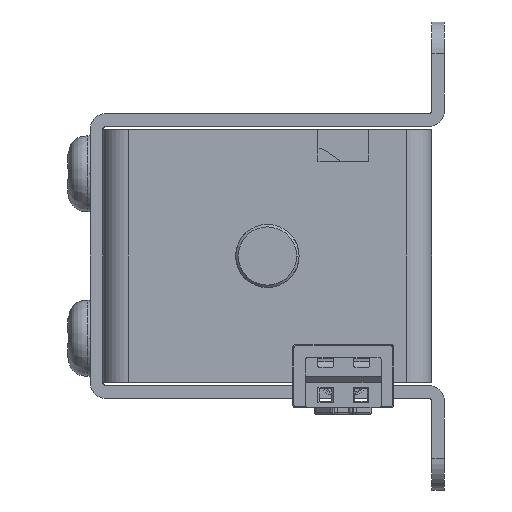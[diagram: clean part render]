
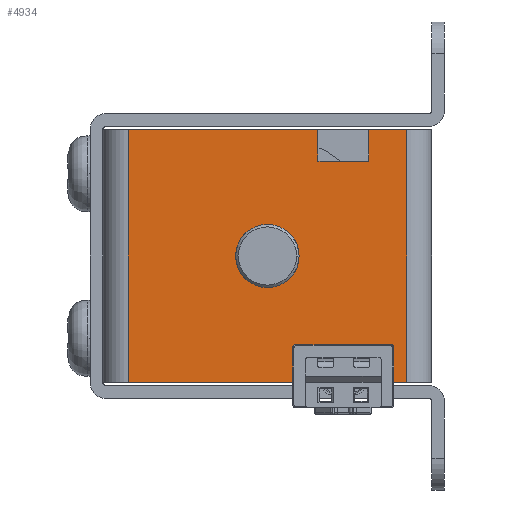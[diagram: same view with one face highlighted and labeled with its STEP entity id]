
A CAD part, left-side view. The second image highlights one B-rep face of the part: STEP entity #4934.
In plain terms, the highlighted planar face has unit normal (-1, 0, 0).
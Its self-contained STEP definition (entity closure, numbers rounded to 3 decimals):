
#34=DIRECTION('',(0.,-1.,0.));
#35=VECTOR('',#34,15.);
#36=CARTESIAN_POINT('',(-27.,11.,-10.));
#37=LINE('',#36,#35);
#83=DIRECTION('',(0.,-1.,0.));
#84=VECTOR('',#83,3.);
#85=CARTESIAN_POINT('',(-27.,-8.,-10.));
#86=LINE('',#85,#84);
#1164=DIRECTION('',(0.,-1.,0.));
#1165=VECTOR('',#1164,15.);
#1166=CARTESIAN_POINT('',(-27.,11.,10.));
#1167=LINE('',#1166,#1165);
#1173=DIRECTION('',(0.,-1.,0.));
#1174=VECTOR('',#1173,3.);
#1175=CARTESIAN_POINT('',(-27.,-8.,10.));
#1176=LINE('',#1175,#1174);
#1239=CARTESIAN_POINT('',(-27.,0.,0.));
#1240=DIRECTION('',(-1.,0.,0.));
#1241=DIRECTION('',(0.,0.,1.));
#1242=AXIS2_PLACEMENT_3D('',#1239,#1240,#1241);
#1244=CARTESIAN_POINT('',(-27.,0.,0.));
#1245=DIRECTION('',(-1.,0.,0.));
#1246=DIRECTION('',(0.,0.,-1.));
#1247=AXIS2_PLACEMENT_3D('',#1244,#1245,#1246);
#1249=DIRECTION('',(0.,0.,-1.));
#1250=VECTOR('',#1249,20.);
#1251=CARTESIAN_POINT('',(-27.,11.,10.));
#1252=LINE('',#1251,#1250);
#1253=DIRECTION('',(0.,0.,-1.));
#1254=VECTOR('',#1253,2.5);
#1255=CARTESIAN_POINT('',(-27.,-4.,10.));
#1256=LINE('',#1255,#1254);
#1257=DIRECTION('',(0.,-1.,0.));
#1258=VECTOR('',#1257,4.);
#1259=CARTESIAN_POINT('',(-27.,-4.,7.5));
#1260=LINE('',#1259,#1258);
#1261=DIRECTION('',(0.,0.,-1.));
#1262=VECTOR('',#1261,2.5);
#1263=CARTESIAN_POINT('',(-27.,-8.,10.));
#1264=LINE('',#1263,#1262);
#1265=DIRECTION('',(0.,0.,-1.));
#1266=VECTOR('',#1265,20.);
#1267=CARTESIAN_POINT('',(-27.,-11.,10.));
#1268=LINE('',#1267,#1266);
#1269=DIRECTION('',(0.,0.,1.));
#1270=VECTOR('',#1269,2.5);
#1271=CARTESIAN_POINT('',(-27.,-8.,-10.));
#1272=LINE('',#1271,#1270);
#1273=DIRECTION('',(0.,1.,0.));
#1274=VECTOR('',#1273,4.);
#1275=CARTESIAN_POINT('',(-27.,-8.,-7.5));
#1276=LINE('',#1275,#1274);
#1277=DIRECTION('',(0.,0.,1.));
#1278=VECTOR('',#1277,2.5);
#1279=CARTESIAN_POINT('',(-27.,-4.,-10.));
#1280=LINE('',#1279,#1278);
#2701=CARTESIAN_POINT('',(-27.,-8.,-10.));
#2703=VERTEX_POINT('',#2701);
#2705=CARTESIAN_POINT('',(-27.,-4.,-10.));
#2707=VERTEX_POINT('',#2705);
#2709=CARTESIAN_POINT('',(-27.,-4.,10.));
#2711=VERTEX_POINT('',#2709);
#2713=CARTESIAN_POINT('',(-27.,-8.,10.));
#2715=VERTEX_POINT('',#2713);
#2717=CARTESIAN_POINT('',(-27.,-8.,-7.5));
#2718=VERTEX_POINT('',#2717);
#2719=CARTESIAN_POINT('',(-27.,-4.,-7.5));
#2720=VERTEX_POINT('',#2719);
#2721=CARTESIAN_POINT('',(-27.,-4.,7.5));
#2722=VERTEX_POINT('',#2721);
#2723=CARTESIAN_POINT('',(-27.,-8.,7.5));
#2724=VERTEX_POINT('',#2723);
#2733=CARTESIAN_POINT('',(-27.,0.,2.5));
#2735=VERTEX_POINT('',#2733);
#2737=CARTESIAN_POINT('',(-27.,0.,-2.5));
#2739=VERTEX_POINT('',#2737);
#2949=CARTESIAN_POINT('',(-27.,11.,-10.));
#2951=VERTEX_POINT('',#2949);
#2955=CARTESIAN_POINT('',(-27.,11.,10.));
#2956=VERTEX_POINT('',#2955);
#2958=CARTESIAN_POINT('',(-27.,-11.,-10.));
#2960=VERTEX_POINT('',#2958);
#2961=CARTESIAN_POINT('',(-27.,-11.,10.));
#2962=VERTEX_POINT('',#2961);
#4904=CARTESIAN_POINT('',(-27.,13.,-10.));
#4905=DIRECTION('',(-1.,0.,0.));
#4906=DIRECTION('',(0.,-1.,0.));
#4907=AXIS2_PLACEMENT_3D('',#4904,#4905,#4906);
#4908=PLANE('',#4907);
#4909=ORIENTED_EDGE('',*,*,#3065,.F.);
#4910=ORIENTED_EDGE('',*,*,#4785,.T.);
#4912=ORIENTED_EDGE('',*,*,#4911,.T.);
#4914=ORIENTED_EDGE('',*,*,#4913,.T.);
#4916=ORIENTED_EDGE('',*,*,#4915,.F.);
#4917=ORIENTED_EDGE('',*,*,#4804,.T.);
#4919=ORIENTED_EDGE('',*,*,#4918,.T.);
#4920=ORIENTED_EDGE('',*,*,#3043,.F.);
#4921=ORIENTED_EDGE('',*,*,#4871,.T.);
#4922=ORIENTED_EDGE('',*,*,#4888,.T.);
#4924=ORIENTED_EDGE('',*,*,#4923,.F.);
#4925=ORIENTED_EDGE('',*,*,#3004,.F.);
#4926=EDGE_LOOP('',(#4909,#4910,#4912,#4914,#4916,#4917,#4919,#4920,#4921,#4922,
#4924,#4925));
#4927=FACE_OUTER_BOUND('',#4926,.F.);
#4929=ORIENTED_EDGE('',*,*,#4928,.T.);
#4931=ORIENTED_EDGE('',*,*,#4930,.T.);
#4932=EDGE_LOOP('',(#4929,#4931));
#4933=FACE_BOUND('',#4932,.F.);
#4934=ADVANCED_FACE('',(#4927,#4933),#4908,.T.);
#1243=CIRCLE('',#1242,2.5);
#1248=CIRCLE('',#1247,2.5);
#3004=EDGE_CURVE('',#2951,#2707,#37,.T.);
#3043=EDGE_CURVE('',#2703,#2960,#86,.T.);
#3065=EDGE_CURVE('',#2956,#2951,#1252,.T.);
#4785=EDGE_CURVE('',#2956,#2711,#1167,.T.);
#4804=EDGE_CURVE('',#2715,#2962,#1176,.T.);
#4871=EDGE_CURVE('',#2703,#2718,#1272,.T.);
#4888=EDGE_CURVE('',#2718,#2720,#1276,.T.);
#4911=EDGE_CURVE('',#2711,#2722,#1256,.T.);
#4913=EDGE_CURVE('',#2722,#2724,#1260,.T.);
#4915=EDGE_CURVE('',#2715,#2724,#1264,.T.);
#4918=EDGE_CURVE('',#2962,#2960,#1268,.T.);
#4923=EDGE_CURVE('',#2707,#2720,#1280,.T.);
#4928=EDGE_CURVE('',#2735,#2739,#1243,.T.);
#4930=EDGE_CURVE('',#2739,#2735,#1248,.T.);
